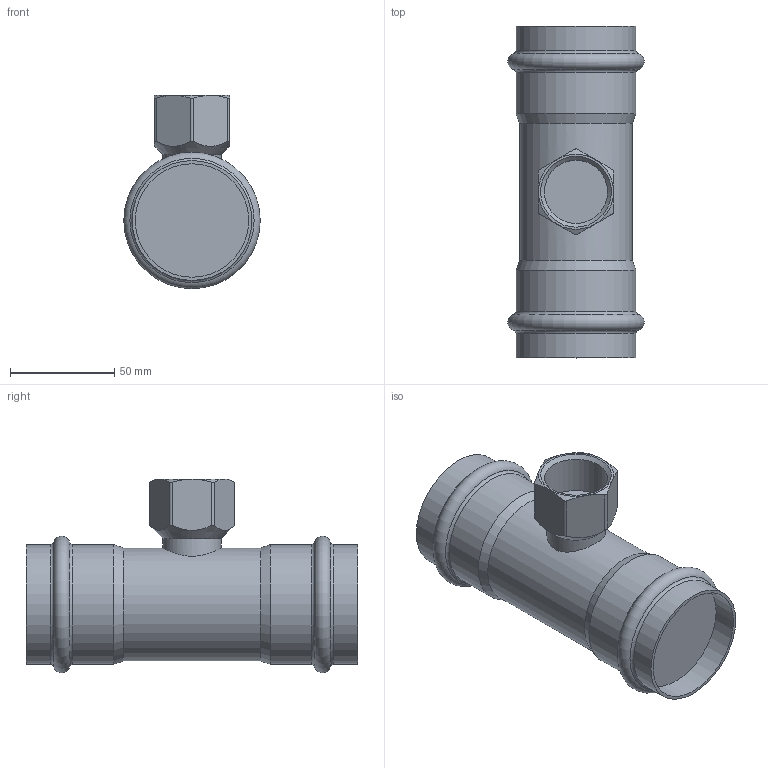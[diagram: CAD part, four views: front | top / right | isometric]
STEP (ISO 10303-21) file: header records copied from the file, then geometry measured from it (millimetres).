
FILE_DESCRIPTION(('STEP AP203'), '1');
FILE_NAME('VTi.932.I.540654', '', ('UNSPECIFIED'), ('UNSPECIFIED'), 'C3D Converter', 'C3D Toolkit', '');
FILE_SCHEMA(('CONFIG_CONTROL_DESIGN'));
Length unit declared in the file: millimetre
Bounding box: 65.38 x 159 x 92.69 mm (x, y, z)
Volume: 365256.2 mm3; surface area: 45362.8 mm2
Topology: 1 solids, 1 shells, 43 faces, 94 edges, 56 vertices
Faces by surface type: cylinder 15, plane 12, cone 10, torus 6
Full cylindrical faces by diameter (mm): 28 x1, 30.292 x1, 54 x1, 54.4 x2, 57.4 x4
Entity records: 2345 total; most frequent: CARTESIAN_POINT 1491, DIRECTION 156, ORIENTED_EDGE 148, EDGE_CURVE 74, AXIS2_PLACEMENT_3D 72, EDGE_LOOP 66, VERTEX_POINT 56, ADVANCED_FACE 43
